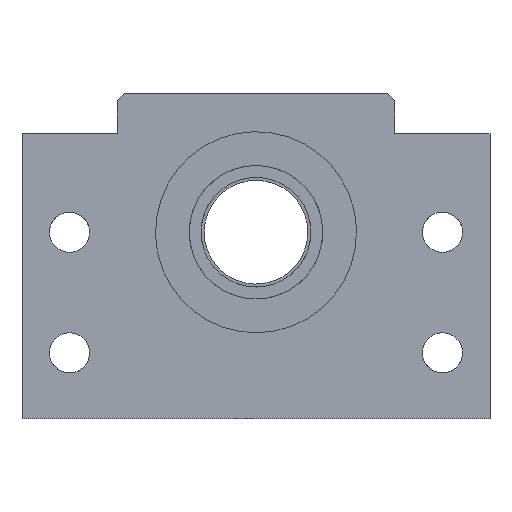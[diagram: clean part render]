
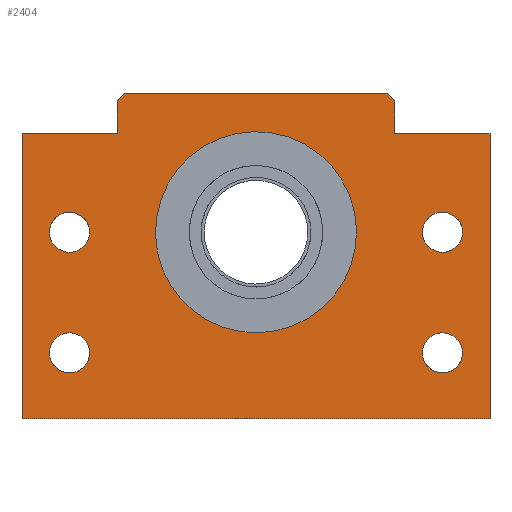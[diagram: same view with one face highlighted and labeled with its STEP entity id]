
A CAD part, left-side view. The second image highlights one B-rep face of the part: STEP entity #2404.
In plain terms, the highlighted planar face has unit normal (-1, 0, 0).
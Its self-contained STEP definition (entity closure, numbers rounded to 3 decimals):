
#70=CARTESIAN_POINT('Vertex',(-45.,46.173,-30.363)) ;
#75=CARTESIAN_POINT('Axis2P3D Location',(-45.,51.,-33.)) ;
#79=CARTESIAN_POINT('Vertex',(-45.,55.827,-35.637)) ;
#127=CARTESIAN_POINT('Axis2P3D Location',(-45.,51.,-33.)) ;
#260=CARTESIAN_POINT('Line Origine',(-45.,0.,-51.)) ;
#264=CARTESIAN_POINT('Vertex',(-45.,-64.,-51.)) ;
#266=CARTESIAN_POINT('Vertex',(-45.,64.,-51.)) ;
#372=CARTESIAN_POINT('Line Origine',(-45.,-64.,-12.)) ;
#376=CARTESIAN_POINT('Vertex',(-45.,-64.,27.)) ;
#463=CARTESIAN_POINT('Line Origine',(-45.,-51.,27.)) ;
#467=CARTESIAN_POINT('Vertex',(-45.,-38.,27.)) ;
#530=CARTESIAN_POINT('Line Origine',(-45.,-38.,31.5)) ;
#534=CARTESIAN_POINT('Vertex',(-45.,-38.,36.)) ;
#572=CARTESIAN_POINT('Vertex',(-45.,-36.,38.)) ;
#575=CARTESIAN_POINT('Line Origine',(-45.,-37.,37.)) ;
#603=CARTESIAN_POINT('Vertex',(-45.,36.,38.)) ;
#606=CARTESIAN_POINT('Line Origine',(-45.,0.,38.)) ;
#634=CARTESIAN_POINT('Vertex',(-45.,38.,36.)) ;
#637=CARTESIAN_POINT('Line Origine',(-45.,37.,37.)) ;
#665=CARTESIAN_POINT('Vertex',(-45.,38.,27.)) ;
#668=CARTESIAN_POINT('Line Origine',(-45.,38.,31.5)) ;
#680=CARTESIAN_POINT('Line Origine',(-45.,51.,27.)) ;
#684=CARTESIAN_POINT('Vertex',(-45.,64.,27.)) ;
#747=CARTESIAN_POINT('Axis2P3D Location',(-45.,0.,0.)) ;
#751=CARTESIAN_POINT('Vertex',(-45.,24.134,13.184)) ;
#753=CARTESIAN_POINT('Vertex',(-45.,-24.134,-13.184)) ;
#782=CARTESIAN_POINT('Axis2P3D Location',(-45.,0.,0.)) ;
#1648=CARTESIAN_POINT('Line Origine',(-45.,64.,-12.)) ;
#2191=CARTESIAN_POINT('Vertex',(-45.,46.173,2.637)) ;
#2194=CARTESIAN_POINT('Axis2P3D Location',(-45.,51.,0.)) ;
#2198=CARTESIAN_POINT('Vertex',(-45.,55.827,-2.637)) ;
#2214=CARTESIAN_POINT('Axis2P3D Location',(-45.,51.,0.)) ;
#2339=CARTESIAN_POINT('Axis2P3D Location',(-45.,0.,0.)) ;
#2368=CARTESIAN_POINT('Axis2P3D Location',(-45.,-51.,0.)) ;
#2372=CARTESIAN_POINT('Vertex',(-45.,-55.827,2.637)) ;
#2374=CARTESIAN_POINT('Vertex',(-45.,-46.173,-2.637)) ;
#2377=CARTESIAN_POINT('Axis2P3D Location',(-45.,-51.,0.)) ;
#2386=CARTESIAN_POINT('Axis2P3D Location',(-45.,-51.,-33.)) ;
#2390=CARTESIAN_POINT('Vertex',(-45.,-55.827,-30.363)) ;
#2392=CARTESIAN_POINT('Vertex',(-45.,-46.173,-35.637)) ;
#2395=CARTESIAN_POINT('Axis2P3D Location',(-45.,-51.,-33.)) ;
#76=DIRECTION('Axis2P3D Direction',(-1.,0.,-0.)) ;
#128=DIRECTION('Axis2P3D Direction',(-1.,0.,-0.)) ;
#261=DIRECTION('Vector Direction',(0.,-1.,0.)) ;
#373=DIRECTION('Vector Direction',(0.,0.,1.)) ;
#464=DIRECTION('Vector Direction',(0.,1.,0.)) ;
#531=DIRECTION('Vector Direction',(0.,0.,1.)) ;
#576=DIRECTION('Vector Direction',(0.,0.707,0.707)) ;
#607=DIRECTION('Vector Direction',(0.,1.,0.)) ;
#638=DIRECTION('Vector Direction',(0.,-0.707,0.707)) ;
#669=DIRECTION('Vector Direction',(0.,0.,-1.)) ;
#681=DIRECTION('Vector Direction',(0.,1.,0.)) ;
#748=DIRECTION('Axis2P3D Direction',(1.,0.,-0.)) ;
#783=DIRECTION('Axis2P3D Direction',(1.,0.,-0.)) ;
#1649=DIRECTION('Vector Direction',(0.,0.,-1.)) ;
#2195=DIRECTION('Axis2P3D Direction',(-1.,0.,0.)) ;
#2215=DIRECTION('Axis2P3D Direction',(-1.,0.,0.)) ;
#2340=DIRECTION('Axis2P3D Direction',(1.,0.,0.)) ;
#2341=DIRECTION('Axis2P3D XDirection',(0.,1.,0.)) ;
#2369=DIRECTION('Axis2P3D Direction',(1.,0.,0.)) ;
#2378=DIRECTION('Axis2P3D Direction',(1.,0.,0.)) ;
#2387=DIRECTION('Axis2P3D Direction',(1.,0.,0.)) ;
#2396=DIRECTION('Axis2P3D Direction',(1.,0.,0.)) ;
#77=AXIS2_PLACEMENT_3D('Circle Axis2P3D',#75,#76,$) ;
#129=AXIS2_PLACEMENT_3D('Circle Axis2P3D',#127,#128,$) ;
#749=AXIS2_PLACEMENT_3D('Circle Axis2P3D',#747,#748,$) ;
#784=AXIS2_PLACEMENT_3D('Circle Axis2P3D',#782,#783,$) ;
#2196=AXIS2_PLACEMENT_3D('Circle Axis2P3D',#2194,#2195,$) ;
#2216=AXIS2_PLACEMENT_3D('Circle Axis2P3D',#2214,#2215,$) ;
#2342=AXIS2_PLACEMENT_3D('Plane Axis2P3D',#2339,#2340,#2341) ;
#2370=AXIS2_PLACEMENT_3D('Circle Axis2P3D',#2368,#2369,$) ;
#2379=AXIS2_PLACEMENT_3D('Circle Axis2P3D',#2377,#2378,$) ;
#2388=AXIS2_PLACEMENT_3D('Circle Axis2P3D',#2386,#2387,$) ;
#2397=AXIS2_PLACEMENT_3D('Circle Axis2P3D',#2395,#2396,$) ;
#2345=ORIENTED_EDGE('',*,*,#579,.F.) ;
#2346=ORIENTED_EDGE('',*,*,#610,.F.) ;
#2347=ORIENTED_EDGE('',*,*,#641,.F.) ;
#2348=ORIENTED_EDGE('',*,*,#672,.F.) ;
#2349=ORIENTED_EDGE('',*,*,#686,.F.) ;
#2350=ORIENTED_EDGE('',*,*,#1652,.F.) ;
#2351=ORIENTED_EDGE('',*,*,#268,.F.) ;
#2352=ORIENTED_EDGE('',*,*,#378,.F.) ;
#2353=ORIENTED_EDGE('',*,*,#469,.F.) ;
#2354=ORIENTED_EDGE('',*,*,#536,.F.) ;
#2357=ORIENTED_EDGE('',*,*,#2218,.T.) ;
#2358=ORIENTED_EDGE('',*,*,#2200,.T.) ;
#2361=ORIENTED_EDGE('',*,*,#81,.T.) ;
#2362=ORIENTED_EDGE('',*,*,#131,.T.) ;
#2365=ORIENTED_EDGE('',*,*,#786,.T.) ;
#2366=ORIENTED_EDGE('',*,*,#755,.T.) ;
#2383=ORIENTED_EDGE('',*,*,#2376,.T.) ;
#2384=ORIENTED_EDGE('',*,*,#2381,.T.) ;
#2401=ORIENTED_EDGE('',*,*,#2394,.T.) ;
#2402=ORIENTED_EDGE('',*,*,#2399,.T.) ;
#2359=FACE_BOUND('',#2356,.T.) ;
#2363=FACE_BOUND('',#2360,.T.) ;
#2367=FACE_BOUND('',#2364,.T.) ;
#2385=FACE_BOUND('',#2382,.T.) ;
#2403=FACE_BOUND('',#2400,.T.) ;
#262=VECTOR('Line Direction',#261,1.) ;
#374=VECTOR('Line Direction',#373,1.) ;
#465=VECTOR('Line Direction',#464,1.) ;
#532=VECTOR('Line Direction',#531,1.) ;
#577=VECTOR('Line Direction',#576,1.) ;
#608=VECTOR('Line Direction',#607,1.) ;
#639=VECTOR('Line Direction',#638,1.) ;
#670=VECTOR('Line Direction',#669,1.) ;
#682=VECTOR('Line Direction',#681,1.) ;
#1650=VECTOR('Line Direction',#1649,1.) ;
#2404=ADVANCED_FACE('BK30(H)',(#2355,#2359,#2363,#2367,#2385,#2403),#2343,.F.) ;
#78=CIRCLE('generated circle',#77,5.5) ;
#130=CIRCLE('generated circle',#129,5.5) ;
#750=CIRCLE('generated circle',#749,27.5) ;
#785=CIRCLE('generated circle',#784,27.5) ;
#2197=CIRCLE('generated circle',#2196,5.5) ;
#2217=CIRCLE('generated circle',#2216,5.5) ;
#2371=CIRCLE('generated circle',#2370,5.5) ;
#2380=CIRCLE('generated circle',#2379,5.5) ;
#2389=CIRCLE('generated circle',#2388,5.5) ;
#2398=CIRCLE('generated circle',#2397,5.5) ;
#81=EDGE_CURVE('',#80,#71,#78,.F.) ;
#131=EDGE_CURVE('',#71,#80,#130,.F.) ;
#268=EDGE_CURVE('',#265,#267,#263,.F.) ;
#378=EDGE_CURVE('',#377,#265,#375,.F.) ;
#469=EDGE_CURVE('',#468,#377,#466,.F.) ;
#536=EDGE_CURVE('',#535,#468,#533,.F.) ;
#579=EDGE_CURVE('',#573,#535,#578,.F.) ;
#610=EDGE_CURVE('',#604,#573,#609,.F.) ;
#641=EDGE_CURVE('',#635,#604,#640,.T.) ;
#672=EDGE_CURVE('',#666,#635,#671,.F.) ;
#686=EDGE_CURVE('',#685,#666,#683,.F.) ;
#755=EDGE_CURVE('',#752,#754,#750,.T.) ;
#786=EDGE_CURVE('',#754,#752,#785,.T.) ;
#1652=EDGE_CURVE('',#267,#685,#1651,.F.) ;
#2200=EDGE_CURVE('',#2199,#2192,#2197,.F.) ;
#2218=EDGE_CURVE('',#2192,#2199,#2217,.F.) ;
#2376=EDGE_CURVE('',#2373,#2375,#2371,.T.) ;
#2381=EDGE_CURVE('',#2375,#2373,#2380,.T.) ;
#2394=EDGE_CURVE('',#2391,#2393,#2389,.T.) ;
#2399=EDGE_CURVE('',#2393,#2391,#2398,.T.) ;
#2344=EDGE_LOOP('',(#2345,#2346,#2347,#2348,#2349,#2350,#2351,#2352,#2353,#2354)) ;
#2356=EDGE_LOOP('',(#2357,#2358)) ;
#2360=EDGE_LOOP('',(#2361,#2362)) ;
#2364=EDGE_LOOP('',(#2365,#2366)) ;
#2382=EDGE_LOOP('',(#2383,#2384)) ;
#2400=EDGE_LOOP('',(#2401,#2402)) ;
#2355=FACE_OUTER_BOUND('',#2344,.T.) ;
#263=LINE('Line',#260,#262) ;
#375=LINE('Line',#372,#374) ;
#466=LINE('Line',#463,#465) ;
#533=LINE('Line',#530,#532) ;
#578=LINE('Line',#575,#577) ;
#609=LINE('Line',#606,#608) ;
#640=LINE('Line',#637,#639) ;
#671=LINE('Line',#668,#670) ;
#683=LINE('Line',#680,#682) ;
#1651=LINE('Line',#1648,#1650) ;
#2343=PLANE('Plane',#2342) ;
#71=VERTEX_POINT('',#70) ;
#80=VERTEX_POINT('',#79) ;
#265=VERTEX_POINT('',#264) ;
#267=VERTEX_POINT('',#266) ;
#377=VERTEX_POINT('',#376) ;
#468=VERTEX_POINT('',#467) ;
#535=VERTEX_POINT('',#534) ;
#573=VERTEX_POINT('',#572) ;
#604=VERTEX_POINT('',#603) ;
#635=VERTEX_POINT('',#634) ;
#666=VERTEX_POINT('',#665) ;
#685=VERTEX_POINT('',#684) ;
#752=VERTEX_POINT('',#751) ;
#754=VERTEX_POINT('',#753) ;
#2192=VERTEX_POINT('',#2191) ;
#2199=VERTEX_POINT('',#2198) ;
#2373=VERTEX_POINT('',#2372) ;
#2375=VERTEX_POINT('',#2374) ;
#2391=VERTEX_POINT('',#2390) ;
#2393=VERTEX_POINT('',#2392) ;
